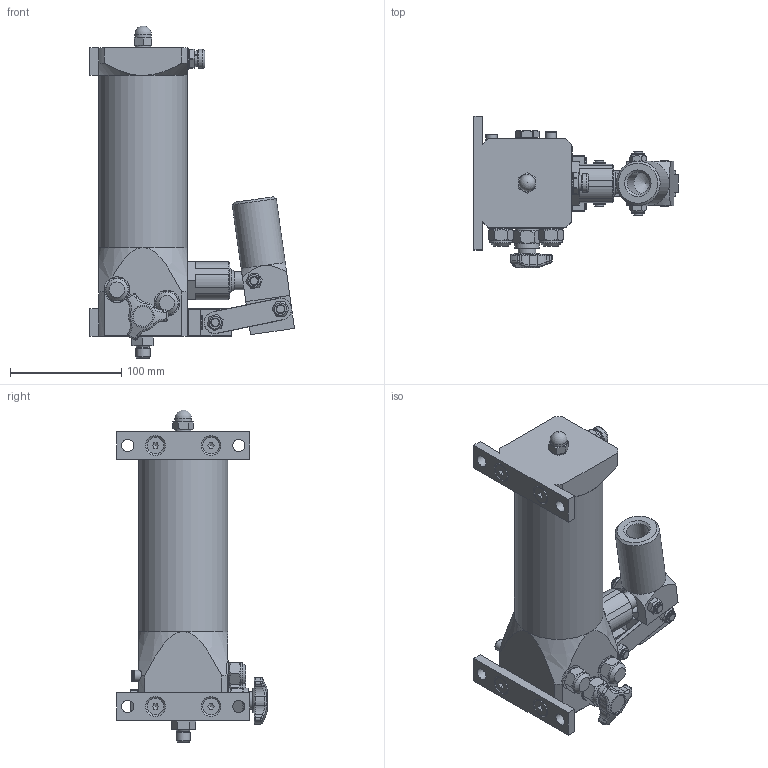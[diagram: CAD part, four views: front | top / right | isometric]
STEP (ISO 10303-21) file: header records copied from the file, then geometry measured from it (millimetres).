
FILE_DESCRIPTION((''),'2;1');
FILE_NAME('G:\HV_HYDRAULIC\AZIENDA_HV_HYDRAULIC\ARCHIVIO_DISEGNI\5_PRODOTTI_FINITI\1_POMPE_MANUALI\6072_PM2V_2-10\6072.0000_PM2V_2-10_a-byB-pm\6072.0000.stp','2024-04-02T16:32:41',('christian.scardovi'),(''),'Autodesk Inventor 2013','Autodesk Inventor 2013','');
FILE_SCHEMA(('AUTOMOTIVE_DESIGN { 1 0 10303 214 1 1 1 1 }'));
Length unit declared in the file: millimetre
Products named in the file (1): 6072.0000
Bounding box: 184.53 x 135.78 x 299 mm (x, y, z)
Volume: 983260.3 mm3; surface area: 225524.5 mm2
Topology: 1 solids, 2 shells, 814 faces, 1948 edges, 1201 vertices
Faces by surface type: plane 347, cone 206, cylinder 199, torus 43, bspline 12, sphere 7
Full cylindrical faces by diameter (mm): 1.5 x1, 3 x1, 4 x2, 4.917 x5, 5 x10, 6 x2, 6.5 x1, 7.5 x2, 8 x14, 8.1 x1, 8.5 x4, 8.917 x3, 10 x7, 10.5 x3, 11 x4, 11.05 x6, 11.445 x3, 12 x1, 13 x3, 14 x8, 14.95 x5, 15 x4, 15.24 x4, 16 x2, 16.7 x1, 17 x4, 18 x2, 19 x3, 20 x8, 20.5 x1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
Entity records: 22781 total; most frequent: CARTESIAN_POINT 5498, DIRECTION 3400, ORIENTED_EDGE 3138, EDGE_CURVE 1569, AXIS2_PLACEMENT_3D 1426, EDGE_LOOP 1164, VERTEX_POINT 1080, STYLED_ITEM 814
